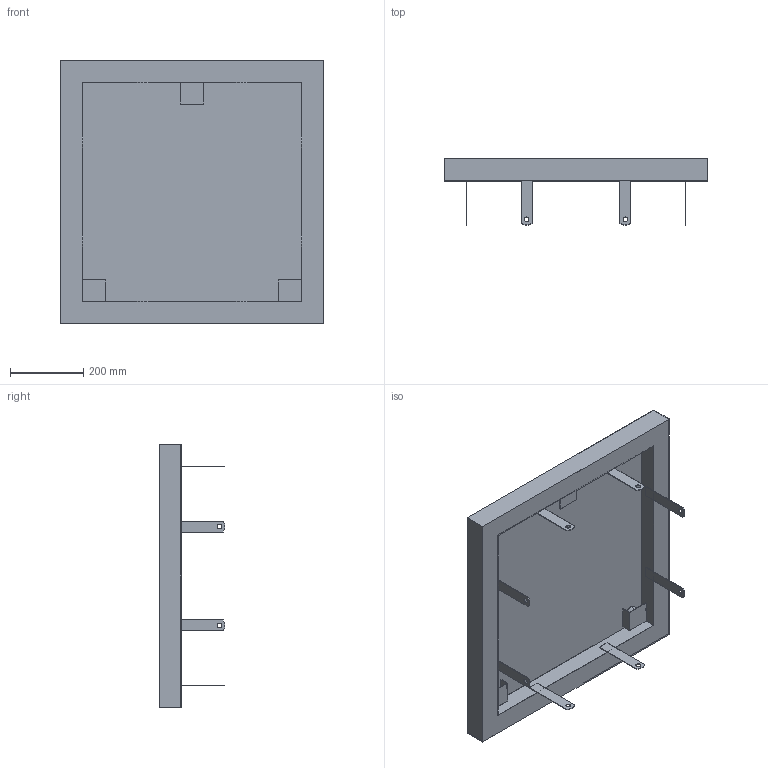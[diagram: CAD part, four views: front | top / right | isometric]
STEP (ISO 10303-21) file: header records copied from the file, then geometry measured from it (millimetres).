
FILE_DESCRIPTION((''),'2;1');
FILE_NAME('51312676','2019-02-19T',('slc'),('HUBER SE'),'PRO/ENGINEER BY PARAMETRIC TECHNOLOGY CORPORATION, 2017170','PRO/ENGINEER BY PARAMETRIC TECHNOLOGY CORPORATION, 2017170','');
FILE_SCHEMA(('AUTOMOTIVE_DESIGN { 1 0 10303 214 1 1 1 1 }'));
Length unit declared in the file: millimetre
Products named in the file (1): 51312676
Bounding box: 720 x 180 x 720 mm (x, y, z)
Volume: 2115241 mm3; surface area: 2131972.8 mm2
Topology: 5 solids, 5 shells, 146 faces, 368 edges, 238 vertices
Faces by surface type: plane 104, cylinder 42
Entity records: 4972 total; most frequent: CARTESIAN_POINT 763, DIRECTION 757, ORIENTED_EDGE 736, EDGE_CURVE 368, VECTOR 284, LINE 284, VERTEX_POINT 238, AXIS2_PLACEMENT_3D 235
